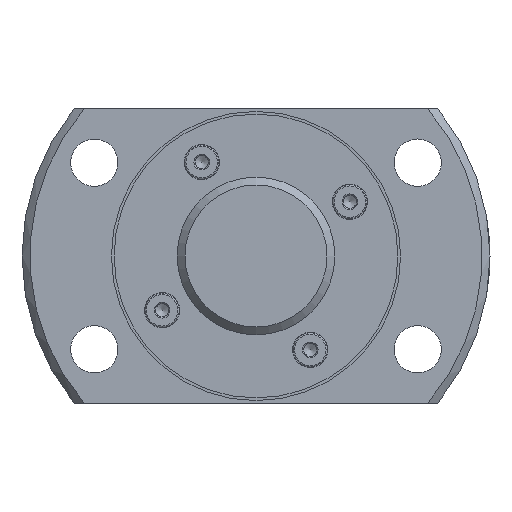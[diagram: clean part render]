
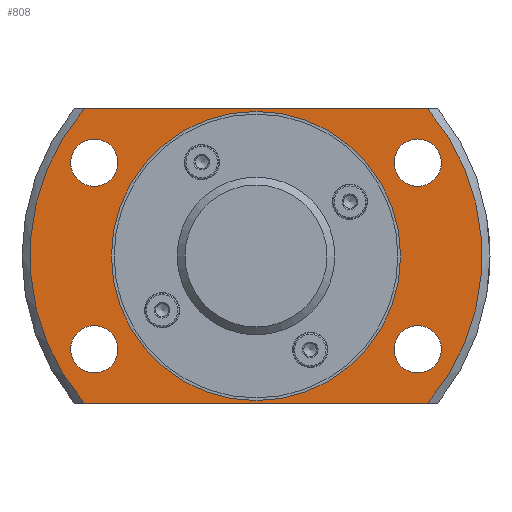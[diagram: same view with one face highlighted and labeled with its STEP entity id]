
A CAD part, left-side view. The second image highlights one B-rep face of the part: STEP entity #808.
In plain terms, the highlighted planar face has unit normal (-1, 0, 0).
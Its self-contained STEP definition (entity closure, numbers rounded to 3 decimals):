
#32=LINE('',#1443,#40);
#33=LINE('',#1444,#41);
#40=VECTOR('',#1127,1000.);
#41=VECTOR('',#1128,1000.);
#171=ORIENTED_EDGE('',*,*,#320,.T.);
#172=ORIENTED_EDGE('',*,*,#321,.F.);
#173=ORIENTED_EDGE('',*,*,#295,.F.);
#174=ORIENTED_EDGE('',*,*,#322,.F.);
#175=ORIENTED_EDGE('',*,*,#318,.F.);
#176=ORIENTED_EDGE('',*,*,#323,.T.);
#177=ORIENTED_EDGE('',*,*,#324,.T.);
#178=ORIENTED_EDGE('',*,*,#325,.T.);
#179=ORIENTED_EDGE('',*,*,#326,.T.);
#295=EDGE_CURVE('',#377,#376,#449,.T.);
#318=EDGE_CURVE('',#396,#397,#467,.T.);
#320=EDGE_CURVE('',#398,#398,#468,.T.);
#321=EDGE_CURVE('',#376,#396,#32,.T.);
#322=EDGE_CURVE('',#397,#377,#33,.T.);
#323=EDGE_CURVE('',#399,#399,#469,.T.);
#324=EDGE_CURVE('',#400,#400,#470,.T.);
#325=EDGE_CURVE('',#401,#401,#471,.T.);
#326=EDGE_CURVE('',#402,#402,#472,.T.);
#376=VERTEX_POINT('',#1366);
#377=VERTEX_POINT('',#1371);
#396=VERTEX_POINT('',#1433);
#397=VERTEX_POINT('',#1435);
#398=VERTEX_POINT('',#1442);
#399=VERTEX_POINT('',#1446);
#400=VERTEX_POINT('',#1448);
#401=VERTEX_POINT('',#1450);
#402=VERTEX_POINT('',#1452);
#449=CIRCLE('',#900,43.);
#467=CIRCLE('',#929,43.);
#468=CIRCLE('',#931,27.5);
#469=CIRCLE('',#932,4.5);
#470=CIRCLE('',#933,4.5);
#471=CIRCLE('',#934,4.5);
#472=CIRCLE('',#935,4.5);
#548=EDGE_LOOP('',(#171));
#549=EDGE_LOOP('',(#172,#173,#174,#175));
#550=EDGE_LOOP('',(#176));
#551=EDGE_LOOP('',(#177));
#552=EDGE_LOOP('',(#178));
#553=EDGE_LOOP('',(#179));
#678=FACE_BOUND('',#548,.T.);
#679=FACE_BOUND('',#549,.T.);
#680=FACE_BOUND('',#550,.T.);
#681=FACE_BOUND('',#551,.T.);
#682=FACE_BOUND('',#552,.T.);
#683=FACE_BOUND('',#553,.T.);
#775=PLANE('',#930);
#808=ADVANCED_FACE('',(#678,#679,#680,#681,#682,#683),#775,.T.);
#900=AXIS2_PLACEMENT_3D('',#1372,#1061,#1062);
#929=AXIS2_PLACEMENT_3D('',#1434,#1121,#1122);
#930=AXIS2_PLACEMENT_3D('',#1440,#1123,#1124);
#931=AXIS2_PLACEMENT_3D('',#1441,#1125,#1126);
#932=AXIS2_PLACEMENT_3D('',#1445,#1129,#1130);
#933=AXIS2_PLACEMENT_3D('',#1447,#1131,#1132);
#934=AXIS2_PLACEMENT_3D('',#1449,#1133,#1134);
#935=AXIS2_PLACEMENT_3D('',#1451,#1135,#1136);
#1061=DIRECTION('',(1.,0.,0.));
#1062=DIRECTION('',(0.,0.,-1.));
#1121=DIRECTION('',(1.,0.,0.));
#1122=DIRECTION('',(0.,0.,-1.));
#1123=DIRECTION('',(-1.,0.,0.));
#1124=DIRECTION('',(0.,0.,1.));
#1125=DIRECTION('',(1.,0.,0.));
#1126=DIRECTION('',(0.,0.,-1.));
#1127=DIRECTION('',(0.,1.,0.));
#1128=DIRECTION('',(0.,-1.,0.));
#1129=DIRECTION('',(1.,0.,0.));
#1130=DIRECTION('',(0.,0.,-1.));
#1131=DIRECTION('',(1.,0.,0.));
#1132=DIRECTION('',(0.,0.,-1.));
#1133=DIRECTION('',(1.,0.,0.));
#1134=DIRECTION('',(0.,0.,-1.));
#1135=DIRECTION('',(1.,0.,0.));
#1136=DIRECTION('',(0.,0.,-1.));
#1366=CARTESIAN_POINT('',(10.,-32.634,-28.));
#1371=CARTESIAN_POINT('',(10.,-32.634,28.));
#1372=CARTESIAN_POINT('',(10.,0.,0.));
#1433=CARTESIAN_POINT('',(10.,32.634,-28.));
#1434=CARTESIAN_POINT('',(10.,0.,0.));
#1435=CARTESIAN_POINT('',(10.,32.634,28.));
#1440=CARTESIAN_POINT('',(10.,43.,0.));
#1441=CARTESIAN_POINT('',(10.,0.,0.));
#1442=CARTESIAN_POINT('',(10.,0.,-27.5));
#1443=CARTESIAN_POINT('',(10.,43.,-28.));
#1444=CARTESIAN_POINT('',(10.,43.,28.));
#1445=CARTESIAN_POINT('',(10.,-30.744,17.75));
#1446=CARTESIAN_POINT('',(10.,-30.744,13.25));
#1447=CARTESIAN_POINT('',(10.,30.744,-17.75));
#1448=CARTESIAN_POINT('',(10.,30.744,-22.25));
#1449=CARTESIAN_POINT('',(10.,-30.744,-17.75));
#1450=CARTESIAN_POINT('',(10.,-30.744,-22.25));
#1451=CARTESIAN_POINT('',(10.,30.744,17.75));
#1452=CARTESIAN_POINT('',(10.,30.744,13.25));
